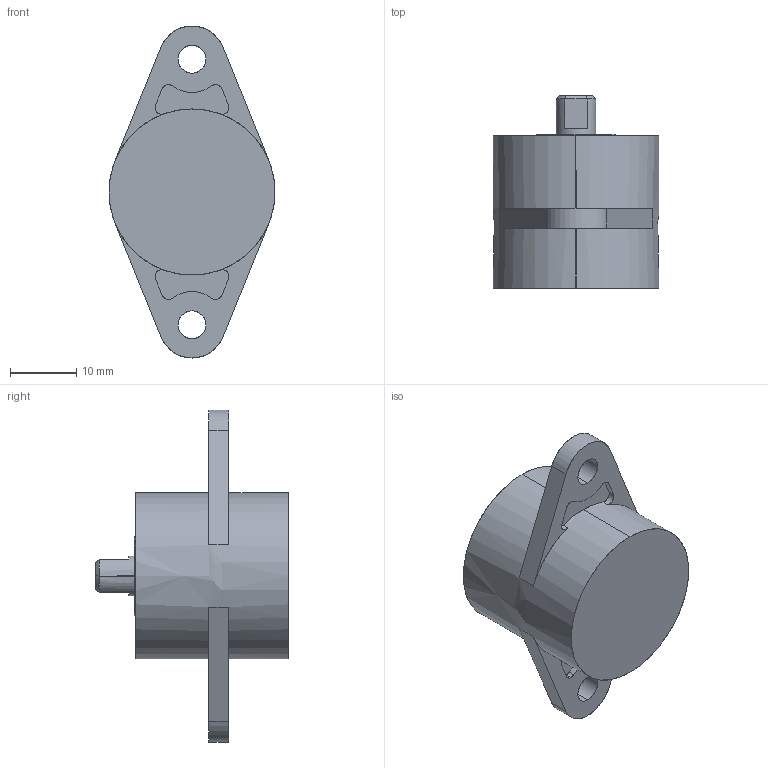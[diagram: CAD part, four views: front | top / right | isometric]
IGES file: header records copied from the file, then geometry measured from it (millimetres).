
Start section: SolidWorks IGES file using analytic representation for surfaces
Global section: file name: C:\3D-DATA\型式\R\【提出用】\IGS\FRT-L1.IGS; native system: SolidWorks 2014; preprocessor: SolidWorks 2014; author: flgijutsu; date: 140516.191930; units: millimetre
Bounding box: 25 x 29 x 50 mm (x, y, z)
Surface area: 3765.8 mm2 (no closed solid volume)
Topology: 0 solids, 0 shells, 57 faces, 965 edges, 965 vertices
Faces by surface type: revolution 31, bspline 26
